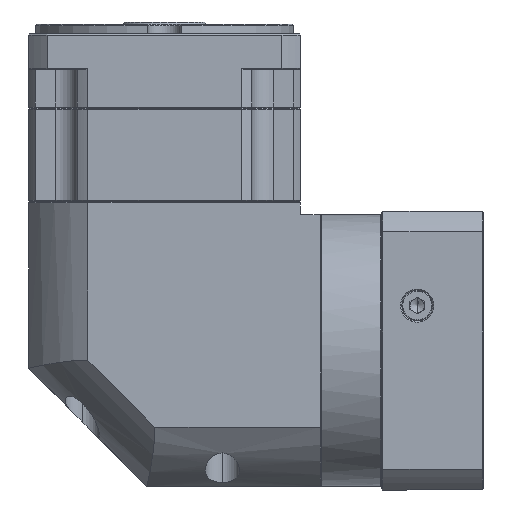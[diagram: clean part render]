
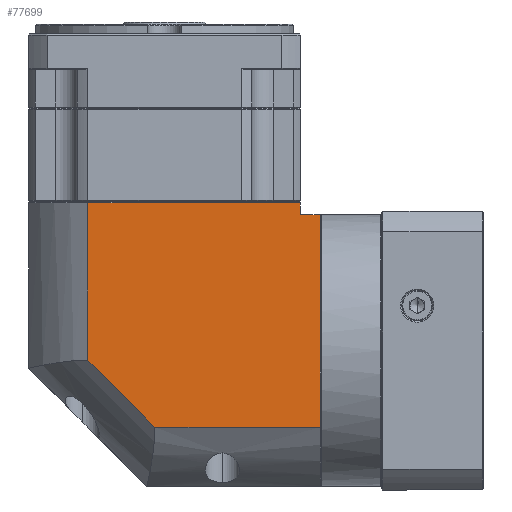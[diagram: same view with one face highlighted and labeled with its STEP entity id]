
A CAD part, left-side view. The second image highlights one B-rep face of the part: STEP entity #77699.
In plain terms, the highlighted planar face has unit normal (-1, 0, 0).
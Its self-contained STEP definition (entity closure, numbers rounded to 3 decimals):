
#6724 = CARTESIAN_POINT ( 'NONE',  ( -280.587, -62.371, 68.532 ) ) ;
#7064 = EDGE_CURVE ( 'NONE', #92862, #59311, #96910, .T. ) ;
#13549 = CARTESIAN_POINT ( 'NONE',  ( -280.587, 52.629, -26.368 ) ) ;
#18880 = VECTOR ( 'NONE', #136424, 1000. ) ;
#29558 = EDGE_LOOP ( 'NONE', ( #125352, #33952, #67797, #88741, #75015, #130290, #150666 ) ) ;
#31998 = VERTEX_POINT ( 'NONE', #134053 ) ;
#33952 = ORIENTED_EDGE ( 'NONE', *, *, #113155, .F. ) ;
#45053 = CARTESIAN_POINT ( 'NONE',  ( -280.587, 27.528, 68.532 ) ) ;
#50397 = DIRECTION ( 'NONE',  ( 0., 1., 0. ) ) ;
#53601 = EDGE_CURVE ( 'NONE', #96739, #31998, #152821, .T. ) ;
#53765 = CARTESIAN_POINT ( 'NONE',  ( -280.587, -0.81, -26.368 ) ) ;
#55002 = DIRECTION ( 'NONE',  ( 1., 0., 0. ) ) ;
#55742 = VECTOR ( 'NONE', #61162, 1000. ) ;
#57115 = VECTOR ( 'NONE', #98932, 1000. ) ;
#58034 = EDGE_CURVE ( 'NONE', #138967, #81655, #167720, .T. ) ;
#58299 = LINE ( 'NONE', #147633, #153626 ) ;
#58720 = CARTESIAN_POINT ( 'NONE',  ( -280.587, -62.371, 63.532 ) ) ;
#59311 = VERTEX_POINT ( 'NONE', #6724 ) ;
#59801 = LINE ( 'NONE', #99730, #55742 ) ;
#59863 = CARTESIAN_POINT ( 'NONE',  ( -280.587, -70.771, -26.368 ) ) ;
#61162 = DIRECTION ( 'NONE',  ( 0., 0., 1. ) ) ;
#66235 = CARTESIAN_POINT ( 'NONE',  ( -280.587, 27.528, 1.971 ) ) ;
#67797 = ORIENTED_EDGE ( 'NONE', *, *, #58034, .F. ) ;
#68401 = VECTOR ( 'NONE', #50397, 1000. ) ;
#75015 = ORIENTED_EDGE ( 'NONE', *, *, #53601, .T. ) ;
#75159 = CARTESIAN_POINT ( 'NONE',  ( -280.587, 52.629, 68.532 ) ) ;
#77699 = ADVANCED_FACE ( 'NONE', ( #138059 ), #154814, .F. ) ;
#81242 = EDGE_CURVE ( 'NONE', #96739, #138967, #156540, .T. ) ;
#81655 = VERTEX_POINT ( 'NONE', #95485 ) ;
#82984 = EDGE_CURVE ( 'NONE', #109390, #92862, #58299, .T. ) ;
#83110 = DIRECTION ( 'NONE',  ( 0., 0., 1. ) ) ;
#87631 = DIRECTION ( 'NONE',  ( 0., -1., 0. ) ) ;
#88741 = ORIENTED_EDGE ( 'NONE', *, *, #81242, .F. ) ;
#92862 = VERTEX_POINT ( 'NONE', #45053 ) ;
#94922 = CARTESIAN_POINT ( 'NONE',  ( -280.587, -70.771, 63.532 ) ) ;
#95485 = CARTESIAN_POINT ( 'NONE',  ( -280.587, -0.81, -26.368 ) ) ;
#96739 = VERTEX_POINT ( 'NONE', #94922 ) ;
#96910 = LINE ( 'NONE', #75159, #165801 ) ;
#98932 = DIRECTION ( 'NONE',  ( 0., 0., -1. ) ) ;
#99730 = CARTESIAN_POINT ( 'NONE',  ( -280.587, -62.371, -51.468 ) ) ;
#109390 = VERTEX_POINT ( 'NONE', #66235 ) ;
#109741 = VECTOR ( 'NONE', #131476, 1000. ) ;
#113155 = EDGE_CURVE ( 'NONE', #81655, #109390, #144249, .T. ) ;
#119404 = EDGE_CURVE ( 'NONE', #31998, #59311, #59801, .T. ) ;
#122664 = AXIS2_PLACEMENT_3D ( 'NONE', #132687, #55002, #145652 ) ;
#125352 = ORIENTED_EDGE ( 'NONE', *, *, #82984, .F. ) ;
#130290 = ORIENTED_EDGE ( 'NONE', *, *, #119404, .T. ) ;
#131476 = DIRECTION ( 'NONE',  ( 0., 0.707, 0.707 ) ) ;
#132687 = CARTESIAN_POINT ( 'NONE',  ( -280.587, 52.629, 75.032 ) ) ;
#134053 = CARTESIAN_POINT ( 'NONE',  ( -280.587, -62.371, 63.532 ) ) ;
#136424 = DIRECTION ( 'NONE',  ( 0., 1., 0. ) ) ;
#138059 = FACE_OUTER_BOUND ( 'NONE', #29558, .T. ) ;
#138967 = VERTEX_POINT ( 'NONE', #59863 ) ;
#144249 = LINE ( 'NONE', #53765, #109741 ) ;
#145652 = DIRECTION ( 'NONE',  ( 0., 1., 0. ) ) ;
#147633 = CARTESIAN_POINT ( 'NONE',  ( -280.587, 27.528, 75.032 ) ) ;
#150666 = ORIENTED_EDGE ( 'NONE', *, *, #7064, .F. ) ;
#151584 = CARTESIAN_POINT ( 'NONE',  ( -280.587, -70.771, 75.032 ) ) ;
#152821 = LINE ( 'NONE', #58720, #18880 ) ;
#153626 = VECTOR ( 'NONE', #83110, 1000. ) ;
#154814 = PLANE ( 'NONE',  #122664 ) ;
#156540 = LINE ( 'NONE', #151584, #57115 ) ;
#165801 = VECTOR ( 'NONE', #87631, 1000. ) ;
#167720 = LINE ( 'NONE', #13549, #68401 ) ;
